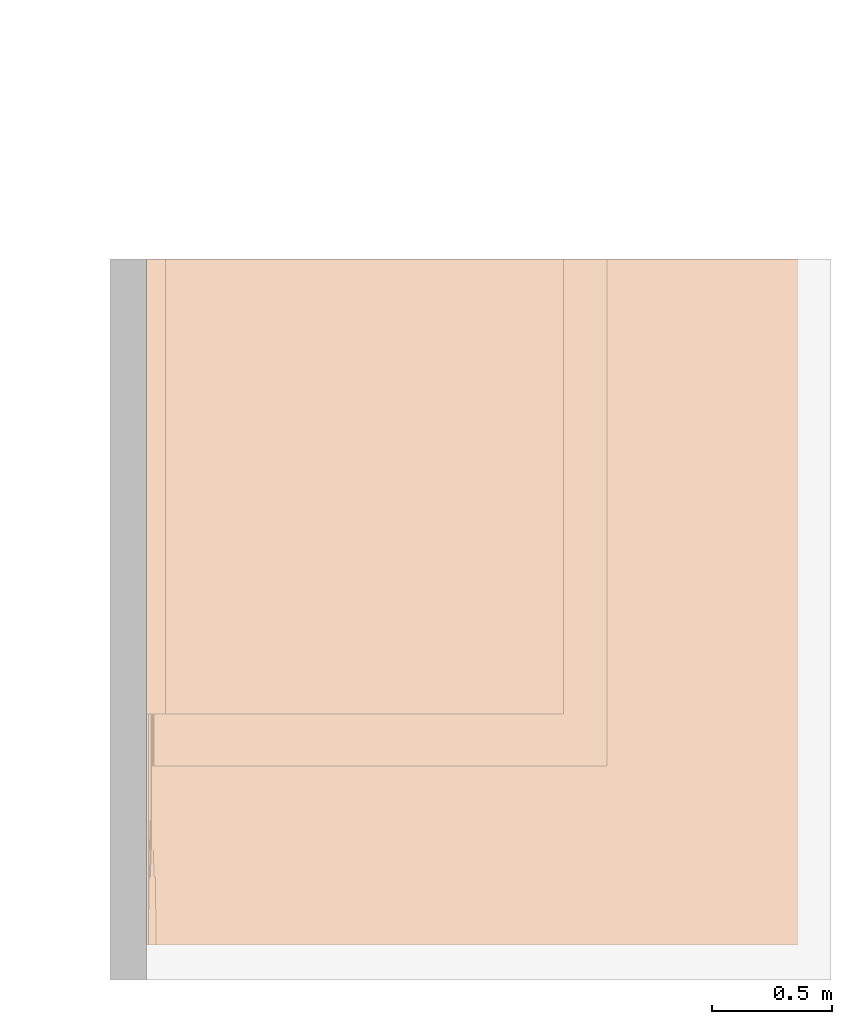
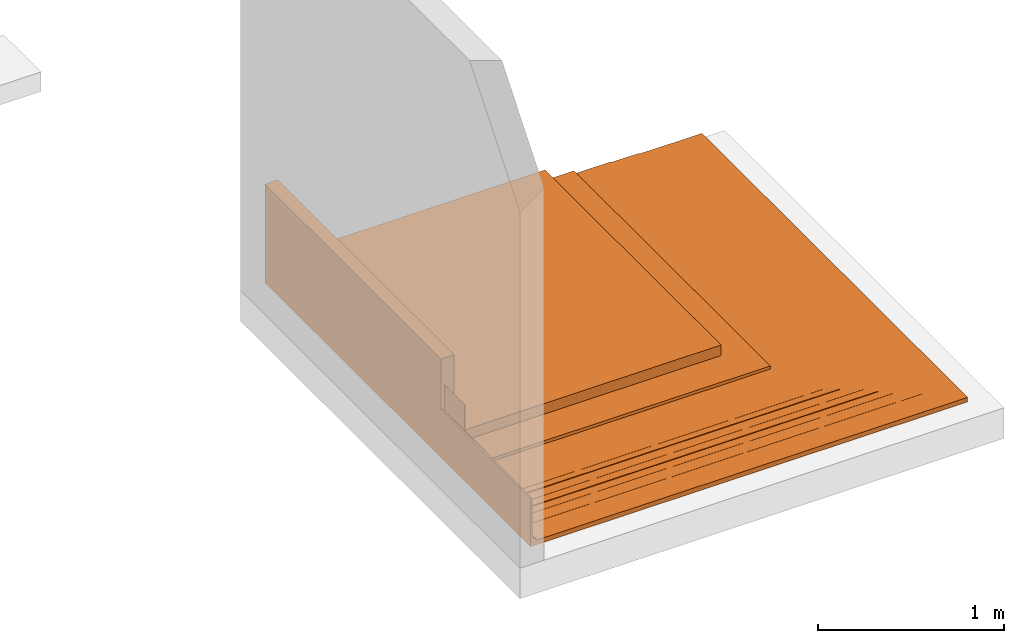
# One storey, part 2 of 2: 1 proxy.
"""IFC2X3 building model written with IfcOpenShell, lengths in metres."""

from ifc_helpers import new_model, entity, si_unit, converted_unit, derived_unit, direction, frame, frame_2d, origin, origin_2d_with_axis, place, context, subcontext, project, spatial, polyline, circle_curve, parameter, trimmed, segment, composite_curve, rectangle, outline, extrude, source, transform, mapped, material, material_list, type_object, type_shapes, element, save


model = new_model("IFC2X3")

# Units and contexts
model_context = context("Model", 3, precision=1e-05, world=origin(), true_north=direction((6.123031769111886e-17, 1.0)))
body_context = subcontext(model_context, "Body", "Model", "MODEL_VIEW")
ifc_project = project(units=[si_unit("LENGTHUNIT", "METRE"), si_unit("AREAUNIT", "SQUARE_METRE"), si_unit("VOLUMEUNIT", "CUBIC_METRE"), converted_unit("PLANEANGLEUNIT", "DEGREE", entity("IfcRatioMeasure", 0.017453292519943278), si_unit("PLANEANGLEUNIT", "RADIAN"), dimensions=[0, 0, 0, 0, 0, 0, 0]), si_unit("MASSUNIT", "GRAM", prefix="KILO"), derived_unit("MASSDENSITYUNIT", [(si_unit("MASSUNIT", "GRAM", prefix="KILO"), 1), (si_unit("LENGTHUNIT", "METRE"), -3)]), derived_unit("IONCONCENTRATIONUNIT", [(si_unit("MASSUNIT", "GRAM", prefix="KILO"), 1), (si_unit("LENGTHUNIT", "METRE"), -3)]), derived_unit("MOMENTOFINERTIAUNIT", [(si_unit("LENGTHUNIT", "METRE"), 4)]), si_unit("TIMEUNIT", "SECOND"), si_unit("FREQUENCYUNIT", "HERTZ"), si_unit("THERMODYNAMICTEMPERATUREUNIT", "DEGREE_CELSIUS"), derived_unit("THERMALTRANSMITTANCEUNIT", [(si_unit("MASSUNIT", "GRAM", prefix="KILO"), 1), (si_unit("THERMODYNAMICTEMPERATUREUNIT", "KELVIN"), -1), (si_unit("TIMEUNIT", "SECOND"), -3)]), derived_unit("THERMALCONDUCTANCEUNIT", [(si_unit("MASSUNIT", "GRAM", prefix="KILO"), 1), (si_unit("THERMODYNAMICTEMPERATUREUNIT", "KELVIN"), -1), (si_unit("TIMEUNIT", "SECOND"), -3), (si_unit("LENGTHUNIT", "METRE"), 1)]), derived_unit("VOLUMETRICFLOWRATEUNIT", [(si_unit("LENGTHUNIT", "METRE"), 3), (si_unit("TIMEUNIT", "SECOND"), -1)]), derived_unit("MASSFLOWRATEUNIT", [(si_unit("MASSUNIT", "GRAM", prefix="KILO"), 1), (si_unit("TIMEUNIT", "SECOND"), -1)]), derived_unit("ROTATIONALFREQUENCYUNIT", [(si_unit("TIMEUNIT", "SECOND"), -1)]), si_unit("ELECTRICCURRENTUNIT", "AMPERE"), si_unit("ELECTRICVOLTAGEUNIT", "VOLT"), si_unit("POWERUNIT", "WATT"), si_unit("FORCEUNIT", "NEWTON", prefix="KILO"), si_unit("ILLUMINANCEUNIT", "LUX"), si_unit("LUMINOUSFLUXUNIT", "LUMEN"), si_unit("LUMINOUSINTENSITYUNIT", "CANDELA"), derived_unit("USERDEFINED", [(si_unit("MASSUNIT", "GRAM", prefix="KILO"), -1), (si_unit("LENGTHUNIT", "METRE"), -2), (si_unit("TIMEUNIT", "SECOND"), 3), (si_unit("LUMINOUSFLUXUNIT", "LUMEN"), 1)]), derived_unit("USERDEFINED", [(si_unit("MASSUNIT", "GRAM", prefix="KILO"), 1), (si_unit("TIMEUNIT", "SECOND"), -3), (si_unit("LENGTHUNIT", "METRE"), 3), (si_unit("ELECTRICCURRENTUNIT", "AMPERE"), -2)]), derived_unit("SOUNDPOWERUNIT", [(si_unit("MASSUNIT", "GRAM", prefix="KILO"), 1), (si_unit("TIMEUNIT", "SECOND"), -3), (si_unit("LENGTHUNIT", "METRE"), 2)]), derived_unit("SOUNDPRESSUREUNIT", [(si_unit("MASSUNIT", "GRAM", prefix="KILO"), 1), (si_unit("LENGTHUNIT", "METRE"), -1), (si_unit("TIMEUNIT", "SECOND"), -2)]), derived_unit("LINEARVELOCITYUNIT", [(si_unit("LENGTHUNIT", "METRE"), 1), (si_unit("TIMEUNIT", "SECOND"), -1)]), si_unit("PRESSUREUNIT", "PASCAL"), derived_unit("USERDEFINED", [(si_unit("MASSUNIT", "GRAM", prefix="KILO"), 1), (si_unit("LENGTHUNIT", "METRE"), -2), (si_unit("TIMEUNIT", "SECOND"), -2)]), derived_unit("LINEARFORCEUNIT", [(si_unit("MASSUNIT", "GRAM", prefix="KILO"), 1), (si_unit("TIMEUNIT", "SECOND"), -2)]), derived_unit("PLANARFORCEUNIT", [(si_unit("MASSUNIT", "GRAM", prefix="KILO"), 1), (si_unit("LENGTHUNIT", "METRE"), -1), (si_unit("TIMEUNIT", "SECOND"), -2)]), derived_unit("SPECIFICHEATCAPACITYUNIT", [(si_unit("THERMODYNAMICTEMPERATUREUNIT", "KELVIN"), -1), (si_unit("LENGTHUNIT", "METRE"), 2), (si_unit("TIMEUNIT", "SECOND"), -2)]), derived_unit("HEATINGVALUEUNIT", [(si_unit("LENGTHUNIT", "METRE"), 2), (si_unit("TIMEUNIT", "SECOND"), -2)]), derived_unit("VAPORPERMEABILITYUNIT", [(si_unit("LENGTHUNIT", "METRE"), -1), (si_unit("TIMEUNIT", "SECOND"), 1)]), derived_unit("DYNAMICVISCOSITYUNIT", [(si_unit("MASSUNIT", "GRAM", prefix="KILO"), 1), (si_unit("TIMEUNIT", "SECOND"), -1), (si_unit("LENGTHUNIT", "METRE"), -1)]), derived_unit("THERMALEXPANSIONCOEFFICIENTUNIT", [(si_unit("THERMODYNAMICTEMPERATUREUNIT", "KELVIN"), -1)]), derived_unit("MODULUSOFELASTICITYUNIT", [(si_unit("MASSUNIT", "GRAM", prefix="KILO"), 1), (si_unit("LENGTHUNIT", "METRE"), -1), (si_unit("TIMEUNIT", "SECOND"), -2)]), derived_unit("ISOTHERMALMOISTURECAPACITYUNIT", [(si_unit("LENGTHUNIT", "METRE"), 3), (si_unit("MASSUNIT", "GRAM", prefix="KILO"), -1)]), derived_unit("MOISTUREDIFFUSIVITYUNIT", [(si_unit("TIMEUNIT", "SECOND"), -1), (si_unit("LENGTHUNIT", "METRE"), 2)])], contexts=[model_context])

# Site, building, storey
site_placement = place(None, origin())
site = spatial("IfcSite", under=ifc_project, at=site_placement, Name="Default", CompositionType="ELEMENT")
building_placement = place(site_placement, origin())
building = spatial("IfcBuilding", under=site, at=building_placement, CompositionType="ELEMENT")
storey_placement = place(building_placement, frame((0.0, 0.0, -0.0025237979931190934)))
storey = spatial("IfcBuildingStorey", under=building, at=storey_placement, Name="ARQ Térreo", CompositionType="ELEMENT", Elevation=-0.0025237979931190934)

# Proxy
ifc_material_1 = material(Name="#argamassa")
ifc_material_2 = material(Name="#Asfalto Modificado NBR II")
ifc_material_3 = material(Name="#selante")
ifc_material_4 = material(Name="#proteção mecânica")
ifc_material_5 = material(Name="#camada amortecedora")
ifc_material_6 = material(Name="#Viapoxi Adesivo")
ifc_material_7 = material(Name="#Tela Plástica")
ifc_material_8 = material(Name="#Primer Adeflex")
ifc_material_9 = material(Name="# Torodin Extra 4mm - TIPO IV - Classe A")
ifc_material_list = material_list([ifc_material_1, ifc_material_2, ifc_material_3, ifc_material_4, ifc_material_5, ifc_material_6, ifc_material_7, ifc_material_8, ifc_material_9])
building_element_proxy_type = type_object("IfcBuildingElementProxyType", Name="IMPER:IMPER", PredefinedType="NOTDEFINED", material=ifc_material_list)
shared_shape = source(origin(), body_context, "Body", "SweptSolid", [
    extrude(rectangle(XDim=2.854111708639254, YDim=0.010000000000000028, at=origin_2d_with_axis()), frame((-0.3479704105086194, -1.2811858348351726, -0.0035237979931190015), z_axis=(0.0, 0.0, 1.0), x_axis=(0.0, -1.0, 0.0)), (0.0, 0.0, 1.0), 0.3135006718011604),
    extrude(outline(composite_curve([segment(polyline([(-1.813859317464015, -0.13360226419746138), (0.20644576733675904, -0.1336022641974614)]), True, "CONTINUOUS"), segment(trimmed(circle_curve(frame_2d((0.20553802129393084, -0.11362287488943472), x_axis=(-1.0, 0.0)), 0.01999999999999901), [parameter(92.60139452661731)], [parameter(178.38787417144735)], True, "PARAMETER"), True, "CONTINUOUS"), segment(polyline([(0.2255301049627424, -0.11418553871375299), (0.22553010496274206, -0.007453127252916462)]), True, "CONTINUOUS"), segment(trimmed(circle_curve(frame_2d((0.23048310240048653, -0.007453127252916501), x_axis=(-1.0, 0.0)), 0.004952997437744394), [parameter(300.6220848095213)], [parameter(0.0)], True, "PARAMETER"), False, "CONTINUOUS"), segment(trimmed(circle_curve(frame_2d((0.2223564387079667, 0.0027603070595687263), x_axis=(-1.0, 0.0)), 0.008174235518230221), [parameter(133.27784297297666)], [parameter(177.32350277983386)], True, "PARAMETER"), True, "CONTINUOUS"), segment(polyline([(0.2305217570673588, 0.002378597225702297), (0.2305217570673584, 0.12637217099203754)]), True, "CONTINUOUS"), segment(polyline([(0.2305217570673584, 0.12637217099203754), (0.23452175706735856, 0.13037217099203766)]), True, "CONTINUOUS"), segment(polyline([(0.23452175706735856, 0.13037217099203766), (0.2355267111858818, 0.13037217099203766)]), True, "CONTINUOUS"), segment(polyline([(0.2355267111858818, 0.13037217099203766), (0.2355267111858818, 0.13137217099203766)]), True, "CONTINUOUS"), segment(polyline([(0.2355267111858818, 0.13137217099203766), (0.23410754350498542, 0.13137217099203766)]), True, "CONTINUOUS"), segment(polyline([(0.23410754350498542, 0.13137217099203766), (0.22949272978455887, 0.12675735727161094)]), True, "CONTINUOUS"), segment(polyline([(0.22949272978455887, 0.12675735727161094), (0.22949272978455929, 0.0024504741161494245)]), True, "CONTINUOUS"), segment(trimmed(circle_curve(frame_2d((0.22306999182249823, 0.0024504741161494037), x_axis=(-1.0, 0.0)), 0.006422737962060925), [parameter(128.38111437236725)], [parameter(180.0000000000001)], True, "PARAMETER"), False, "CONTINUOUS"), segment(trimmed(circle_curve(frame_2d((0.23048310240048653, -0.007453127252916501), x_axis=(-1.0, 0.0)), 0.005952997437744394), [parameter(305.12701085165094)], [parameter(359.9999999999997)], True, "PARAMETER"), True, "CONTINUOUS"), segment(polyline([(0.224530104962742, -0.007453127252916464), (0.22453010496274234, -0.11417128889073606)]), True, "CONTINUOUS"), segment(trimmed(circle_curve(frame_2d((0.20553802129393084, -0.11362287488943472), x_axis=(-1.0, 0.0)), 0.01899999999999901), [parameter(92.6689865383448)], [parameter(178.34599092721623)], True, "PARAMETER"), False, "CONTINUOUS"), segment(polyline([(0.20642277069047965, -0.1326022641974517), (-1.813859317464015, -0.1326022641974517)]), True, "CONTINUOUS"), segment(polyline([(-1.813859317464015, -0.1326022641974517), (-1.813859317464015, -0.13360226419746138)]), True, "CONTINUOUS")], self_intersect=False)), frame((-0.10643238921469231, -2.2686283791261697, 0.1710990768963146), z_axis=(0.0, 1.0, 0.0), x_axis=(-1.0, 0.0, 0.0)), (0.0, 0.0, 1.0), 2.4144983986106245),
    extrude(outline(composite_curve([segment(polyline([(-1.8958298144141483, -0.09711737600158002), (0.32326479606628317, -0.09711737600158)]), True, "CONTINUOUS"), segment(trimmed(circle_curve(frame_2d((0.32224985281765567, -0.07213798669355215), x_axis=(-1.0, 0.0)), 0.024999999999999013), [parameter(92.32671802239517)], [parameter(178.55808033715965)], True, "PARAMETER"), True, "CONTINUOUS"), segment(polyline([(0.3472419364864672, -0.07276707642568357), (0.34724193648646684, 0.03403176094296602)]), True, "CONTINUOUS"), segment(polyline([(0.34724193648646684, 0.03403176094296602), (0.35123854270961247, 0.03802836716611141)]), True, "CONTINUOUS"), segment(polyline([(0.35123854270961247, 0.03802836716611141), (0.3522385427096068, 0.038028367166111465)]), True, "CONTINUOUS"), segment(polyline([(0.3522385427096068, 0.038028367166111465), (0.35223854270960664, 0.17185705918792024)]), True, "CONTINUOUS"), segment(polyline([(0.35223854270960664, 0.17185705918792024), (0.3512335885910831, 0.17185705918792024)]), True, "CONTINUOUS"), segment(polyline([(0.3512335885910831, 0.17185705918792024), (0.3512335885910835, 0.043779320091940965)]), True, "CONTINUOUS"), segment(trimmed(circle_curve(frame_2d((0.3390682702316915, 0.0442451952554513), x_axis=(-1.0, 0.0)), 0.012174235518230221), [parameter(126.10379218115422)], [parameter(177.80690954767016)], True, "PARAMETER"), False, "CONTINUOUS"), segment(polyline([(0.34624193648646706, 0.034409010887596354), (0.3462419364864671, -0.07275436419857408)]), True, "CONTINUOUS"), segment(trimmed(circle_curve(frame_2d((0.32224985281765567, -0.07213798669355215), x_axis=(-1.0, 0.0)), 0.02399999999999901), [parameter(92.37470343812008)], [parameter(178.5283452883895)], True, "PARAMETER"), False, "CONTINUOUS"), segment(polyline([(0.32324428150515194, -0.0961173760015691), (-1.8958298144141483, -0.0961173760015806)]), True, "CONTINUOUS"), segment(polyline([(-1.8958298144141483, -0.0961173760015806), (-1.8958298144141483, -0.09711737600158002)]), True, "CONTINUOUS")], self_intersect=False)), frame((0.01027944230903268, -2.3729793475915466, 0.1296141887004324), z_axis=(0.0, 1.0, 0.0), x_axis=(-1.0, 0.0, 0.0)), (0.0, 0.0, 1.0), 2.518849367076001),
    extrude(outline(composite_curve([segment(polyline([(-1.7684763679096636, -0.04184388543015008), (0.5713360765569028, -0.041843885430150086)]), True, "CONTINUOUS"), segment(trimmed(circle_curve(frame_2d((0.5701161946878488, -0.01286955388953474), x_axis=(-1.0, 0.0)), 0.028999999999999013), [parameter(92.41085211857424)], [parameter(178.3997563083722)], True, "PARAMETER"), True, "CONTINUOUS"), segment(polyline([(0.5991048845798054, -0.013679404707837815), (0.599104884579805, 0.09630019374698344)]), True, "CONTINUOUS"), segment(polyline([(0.599104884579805, 0.09630019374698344), (0.5981082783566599, 0.09630019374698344)]), True, "CONTINUOUS"), segment(polyline([(0.5981082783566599, 0.09630019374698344), (0.5981082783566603, -0.013535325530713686)]), True, "CONTINUOUS"), segment(trimmed(circle_curve(frame_2d((0.5701161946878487, -0.01286955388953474), x_axis=(-1.0, 0.0)), 0.027999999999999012), [parameter(92.19852569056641)], [parameter(178.63751783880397)], True, "PARAMETER"), False, "CONTINUOUS"), segment(polyline([(0.5711903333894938, -0.040848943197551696), (-1.7684763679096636, -0.04084894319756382)]), True, "CONTINUOUS"), segment(polyline([(-1.7684763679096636, -0.04084894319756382), (-1.7684763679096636, -0.04184388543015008)]), True, "CONTINUOUS")], self_intersect=False)), frame((0.2571457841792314, -2.4789376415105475, 0.06934575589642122), z_axis=(0.0, 1.0, 0.0), x_axis=(-1.0, 0.0, 0.0)), (0.0, 0.0, 1.0), 2.624807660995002),
    extrude(rectangle(XDim=1.8925693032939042, YDim=0.020000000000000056, at=origin_2d_with_axis()), frame((-0.2619704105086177, -0.8004146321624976, 0.10730187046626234), z_axis=(0.0, 0.0, 1.0), x_axis=(0.0, -1.0, 0.0)), (0.0, 0.0, 1.0), 0.019999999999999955),
    extrude(outline(composite_curve([segment(polyline([(0.10117837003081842, -1.4683862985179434), (0.16998342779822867, -1.4683862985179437)]), True, "CONTINUOUS"), segment(polyline([(0.16998342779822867, -1.4683862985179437), (0.16998342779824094, 0.24641370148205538)]), True, "CONTINUOUS"), segment(polyline([(0.16998342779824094, 0.24641370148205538), (0.06483429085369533, 0.2464137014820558)]), True, "CONTINUOUS"), segment(trimmed(circle_curve(frame_2d((0.06483429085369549, 0.25237009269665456), x_axis=(0.0, -1.0)), 0.005952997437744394), [parameter(305.12701085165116)], [parameter(359.9999999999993)], True, "PARAMETER"), False, "CONTINUOUS"), segment(trimmed(circle_curve(frame_2d((0.05493068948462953, 0.24495698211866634), x_axis=(0.0, -1.0)), 0.006422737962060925), [parameter(128.38111437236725)], [parameter(179.9999999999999)], True, "PARAMETER"), True, "CONTINUOUS"), segment(polyline([(0.054930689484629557, 0.2513797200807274), (-0.07461386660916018, 0.2513797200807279)]), True, "CONTINUOUS"), segment(polyline([(-0.07461386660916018, 0.2513797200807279), (-0.0814966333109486, 0.25826248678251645)]), True, "CONTINUOUS"), segment(polyline([(-0.0814966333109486, 0.25826248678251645), (-0.08149663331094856, 0.2684250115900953)]), True, "CONTINUOUS"), segment(polyline([(-0.08149663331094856, 0.2684250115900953), (-0.41399100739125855, 0.26842501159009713)]), True, "CONTINUOUS"), segment(polyline([(-0.41399100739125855, 0.26842501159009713), (-0.4139910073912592, 0.18742501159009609)]), True, "CONTINUOUS"), segment(polyline([(-0.4139910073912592, 0.18742501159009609), (0.10117837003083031, 0.18742501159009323)]), True, "CONTINUOUS"), segment(polyline([(0.10117837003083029, 0.18742501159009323), (0.12117837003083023, 0.18742501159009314)]), True, "CONTINUOUS"), segment(polyline([(0.12117837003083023, 0.18742501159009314), (0.12117837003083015, 0.16742501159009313)]), True, "CONTINUOUS"), segment(polyline([(0.12117837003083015, 0.16742501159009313), (0.10117837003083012, 0.1674250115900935)]), True, "CONTINUOUS"), segment(polyline([(0.10117837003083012, 0.1674250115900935), (0.10117837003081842, -1.4683862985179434)]), True, "CONTINUOUS")], self_intersect=False)), frame((-0.08454539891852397, -1.7466992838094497, 0.22848024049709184), z_axis=(0.0, 1.0, 0.0), x_axis=(0.0, 0.0, -1.0)), (0.0, 0.0, 1.0), 1.892569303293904),
    extrude(outline(composite_curve([segment(polyline([(-0.011666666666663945, -1.2077923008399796), (0.008333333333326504, -1.2077923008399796)]), True, "CONTINUOUS"), segment(polyline([(0.008333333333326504, -1.2077923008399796), (0.008333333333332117, 0.5322156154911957)]), True, "CONTINUOUS"), segment(polyline([(0.008333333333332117, 0.5322156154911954), (0.0033333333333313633, 0.5322156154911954)]), True, "CONTINUOUS"), segment(polyline([(0.0033333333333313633, 0.5322156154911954), (0.0033333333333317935, 0.668975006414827)]), True, "CONTINUOUS"), segment(trimmed(circle_curve(frame_2d((-0.010646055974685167, 0.6682156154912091), x_axis=(0.0, -1.0)), 0.013999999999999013), [parameter(93.10937565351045)], [parameter(184.18061466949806)], True, "PARAMETER"), True, "CONTINUOUS"), segment(polyline([(-0.011666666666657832, 0.6821783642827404), (-0.011666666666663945, -1.2077923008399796)]), True, "CONTINUOUS")], self_intersect=False)), frame((0.35624520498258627, -1.963640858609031, 0.04683014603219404), z_axis=(0.0, 1.0, 0.0), x_axis=(0.0, 0.0, -1.0)), (0.0, 0.0, 1.0), 2.109510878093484),
    extrude(outline(polyline([(-0.0018600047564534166, 4.9098278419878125e-05), (0.00810994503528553, 4.909827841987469e-05), (0.011813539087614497, 0.003752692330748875), (-0.0023990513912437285, 0.0037526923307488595), (-0.008892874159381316, -0.0027411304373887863), (-0.006771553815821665, -0.004862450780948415), (-0.0018600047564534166, 4.9098278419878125e-05)])), frame((-0.3372750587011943, -2.191126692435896, 0.2991369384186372), z_axis=(0.0, 1.0, 0.0), x_axis=(-0.707106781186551, 0.0, 0.7071067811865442)), (0.0, 0.0, 1.0), 2.3369967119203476),
    extrude(outline(composite_curve([segment(polyline([(0.0043999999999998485, -0.08363852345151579), (0.0043999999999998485, -0.18117651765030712)]), True, "CONTINUOUS"), segment(polyline([(0.0043999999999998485, -0.18117651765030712), (0.005199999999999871, -0.18117651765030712)]), True, "CONTINUOUS"), segment(polyline([(0.005199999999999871, -0.18117651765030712), (0.005199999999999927, -0.0836385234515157)]), True, "CONTINUOUS"), segment(trimmed(circle_curve(frame_2d((-0.010352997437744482, -0.08363852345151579), x_axis=(1.0, 0.0)), 0.015552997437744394), [parameter(3.5622212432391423e-13)], [parameter(46.2607256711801)], True, "PARAMETER"), True, "CONTINUOUS"), segment(polyline([(0.0004000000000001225, -0.07240158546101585), (0.000400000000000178, 0.05148795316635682)]), True, "CONTINUOUS"), segment(trimmed(circle_curve(frame_2d((-0.015152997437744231, 0.05148795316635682), x_axis=(1.0, 0.0)), 0.015552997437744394), [parameter(0.0)], [parameter(46.26072567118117)], True, "PARAMETER"), True, "CONTINUOUS"), segment(polyline([(-0.0043999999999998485, 0.06272489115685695), (-0.004400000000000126, 0.22335087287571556)]), True, "CONTINUOUS"), segment(polyline([(-0.004400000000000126, 0.22335087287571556), (-0.005200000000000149, 0.22335087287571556)]), True, "CONTINUOUS"), segment(polyline([(-0.005200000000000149, 0.22335087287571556), (-0.005199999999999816, 0.06237780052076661)]), True, "CONTINUOUS"), segment(trimmed(circle_curve(frame_2d((-0.015152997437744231, 0.05148795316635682), x_axis=(1.0, 0.0)), 0.014752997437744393), [parameter(359.9999999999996)], [parameter(47.573614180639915)], True, "PARAMETER"), False, "CONTINUOUS"), segment(polyline([(-0.0003999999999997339, 0.05148795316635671), (-0.00039999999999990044, -0.0727486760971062)]), True, "CONTINUOUS"), segment(trimmed(circle_curve(frame_2d((-0.010352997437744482, -0.08363852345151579), x_axis=(1.0, 0.0)), 0.014752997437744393), [parameter(0.0)], [parameter(47.5736141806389)], True, "PARAMETER"), False, "CONTINUOUS")], self_intersect=False)), frame((-0.326759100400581, -1.963640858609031, 0.2459882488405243), z_axis=(0.0, -1.0, 0.0), x_axis=(1.0, 0.0, 0.0)), (0.0, 0.0, -1.0), 2.109510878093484),
    extrude(outline(composite_curve([segment(polyline([(-1.0560000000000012, -0.006000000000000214), (1.6140000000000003, -0.0060000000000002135)]), True, "CONTINUOUS"), segment(polyline([(1.6140000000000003, -0.0060000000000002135), (1.6140000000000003, 0.023999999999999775)]), True, "CONTINUOUS"), segment(polyline([(1.6140000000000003, 0.023999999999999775), (-1.0860000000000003, 0.02399999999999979)]), True, "CONTINUOUS"), segment(polyline([(-1.0860000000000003, 0.023999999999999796), (-1.0860000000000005, -0.03599999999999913)]), True, "CONTINUOUS"), segment(trimmed(circle_curve(frame_2d((-1.0560000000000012, -0.03599999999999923), x_axis=(1.0, 0.0)), 0.029999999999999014), [parameter(90.00000000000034)], [parameter(179.99999999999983)], True, "PARAMETER"), False, "CONTINUOUS")], self_intersect=False)), frame((0.7430295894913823, -2.7082416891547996, 0.02047620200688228), z_axis=(0.0, 1.0, 0.0), x_axis=(1.0, 0.0, 0.0)), (0.0, 0.0, 1.0), 2.8541117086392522),
    extrude(outline(composite_curve([segment(polyline([(-0.6330418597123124, -0.04746379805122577), (-0.6330418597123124, 0.19934109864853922)]), True, "CONTINUOUS"), segment(polyline([(-0.6330418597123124, 0.19934109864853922), (-0.6340531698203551, 0.19934109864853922)]), True, "CONTINUOUS"), segment(polyline([(-0.6340531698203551, 0.19934109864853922), (-0.6340531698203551, -0.04665394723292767)]), True, "CONTINUOUS"), segment(trimmed(circle_curve(frame_2d((-0.6040531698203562, -0.04665394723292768), x_axis=(1.0, 0.0)), 0.029999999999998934), [parameter(179.99999999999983)], [parameter(270.0000000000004)], True, "PARAMETER"), True, "CONTINUOUS"), segment(polyline([(-0.6040531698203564, -0.07665394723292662), (1.8717581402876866, -0.07665394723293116)]), True, "CONTINUOUS"), segment(polyline([(1.8717581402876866, -0.07665394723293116), (1.8717581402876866, -0.07562827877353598)]), True, "CONTINUOUS"), segment(polyline([(1.8717581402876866, -0.07562827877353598), (-0.6052730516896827, -0.07562827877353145)]), True, "CONTINUOUS"), segment(trimmed(circle_curve(frame_2d((-0.6040531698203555, -0.04665394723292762), x_axis=(1.0, 0.0)), 0.028999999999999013), [parameter(181.60024369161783)], [parameter(267.5891478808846)], True, "PARAMETER"), False, "CONTINUOUS")], self_intersect=False)), frame((0.2910827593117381, -2.558785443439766, 0.10313014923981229), z_axis=(0.0, -1.0, 0.0), x_axis=(1.0, 0.0, 0.0)), (0.0, 0.0, -1.0), 2.7046554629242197),
    extrude(outline(composite_curve([segment(trimmed(circle_curve(frame_2d((-0.03309582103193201, -0.3317646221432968), x_axis=(0.0, 1.0)), 0.004952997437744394), [parameter(4.0711099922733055e-13)], [parameter(59.3779151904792)], True, "PARAMETER"), True, "CONTINUOUS"), segment(trimmed(circle_curve(frame_2d((-0.04330925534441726, -0.323637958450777), x_axis=(0.0, 1.0)), 0.008174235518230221), [parameter(182.67649722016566)], [parameter(226.72215702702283)], True, "PARAMETER"), False, "CONTINUOUS"), segment(polyline([(-0.04292754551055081, -0.3318032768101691), (-0.1669211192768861, -0.3318032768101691)]), True, "CONTINUOUS"), segment(polyline([(-0.1669211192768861, -0.3318032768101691), (-0.17092111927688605, -0.3358032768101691)]), True, "CONTINUOUS"), segment(polyline([(-0.17092111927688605, -0.3358032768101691), (-0.04284338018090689, -0.3358032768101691)]), True, "CONTINUOUS"), segment(trimmed(circle_curve(frame_2d((-0.04330925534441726, -0.323637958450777), x_axis=(0.0, 1.0)), 0.012174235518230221), [parameter(182.19309045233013)], [parameter(233.8962078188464)], True, "PARAMETER"), True, "CONTINUOUS"), segment(polyline([(-0.0334730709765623, -0.33081162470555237), (0.07369030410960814, -0.33081162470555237)]), True, "CONTINUOUS"), segment(trimmed(circle_curve(frame_2d((0.07307392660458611, -0.30681954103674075), x_axis=(0.0, 1.0)), 0.02399999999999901), [parameter(181.47165471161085)], [parameter(267.6252965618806)], True, "PARAMETER"), True, "CONTINUOUS"), segment(polyline([(0.09705331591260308, -0.3078139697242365), (0.09705331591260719, 1.7976212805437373)]), True, "CONTINUOUS"), segment(polyline([(0.09705331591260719, 1.7976212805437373), (0.09305331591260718, 1.7976212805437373)]), True, "CONTINUOUS"), segment(polyline([(0.09305331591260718, 1.7976212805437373), (0.09305331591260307, -0.3077272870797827)]), True, "CONTINUOUS"), segment(trimmed(circle_curve(frame_2d((0.07307392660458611, -0.30681954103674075), x_axis=(0.0, 1.0)), 0.01999999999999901), [parameter(181.61212582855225)], [parameter(267.398605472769)], True, "PARAMETER"), False, "CONTINUOUS"), segment(polyline([(0.07363659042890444, -0.32681162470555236), (-0.033095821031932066, -0.32681162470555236)]), True, "CONTINUOUS")], self_intersect=False)), frame((-0.005150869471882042, -2.3104740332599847, 0.13055012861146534), z_axis=(0.0, -1.0, 0.0), x_axis=(0.0, 0.0, -1.0)), (0.0, 0.0, -1.0), 2.456344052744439),
    extrude(outline(composite_curve([segment(polyline([(-0.5802061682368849, -0.013878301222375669), (-0.5802061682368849, 0.09292053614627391)]), True, "CONTINUOUS"), segment(polyline([(-0.5802061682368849, 0.09292053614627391), (-0.5842027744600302, 0.09691714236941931)]), True, "CONTINUOUS"), segment(polyline([(-0.5842027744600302, 0.09691714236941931), (-0.58420277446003, -0.015044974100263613)]), True, "CONTINUOUS"), segment(trimmed(circle_curve(frame_2d((-0.5562140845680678, -0.014249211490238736), x_axis=(1.0, 0.0)), 0.027999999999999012), [parameter(181.62857067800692)], [parameter(267.8014743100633)], True, "PARAMETER"), True, "CONTINUOUS"), segment(polyline([(-0.5572882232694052, -0.042228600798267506), (1.7211675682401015, -0.042228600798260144)]), True, "CONTINUOUS"), segment(polyline([(1.7211675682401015, -0.042228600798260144), (1.7211675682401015, -0.03822860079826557)]), True, "CONTINUOUS"), segment(polyline([(1.7211675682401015, -0.03822860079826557), (-0.5562290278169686, -0.038228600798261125)]), True, "CONTINUOUS"), segment(trimmed(circle_curve(frame_2d((-0.5552140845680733, -0.013249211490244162), x_axis=(1.0, 0.0)), 0.024999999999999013), [parameter(181.44191966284)], [parameter(267.6732819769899)], True, "PARAMETER"), False, "CONTINUOUS")], self_intersect=False)), frame((0.24324367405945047, -2.425100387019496, 0.07072541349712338), z_axis=(0.0, -1.0, 0.0), x_axis=(1.0, 0.0, 0.0)), (0.0, 0.0, -1.0), 2.5709704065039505),
])
type_shapes(building_element_proxy_type, [shared_shape])
proxy_placement = place(storey_placement, frame((0.0, 0.0, 0.0025237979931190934)))
element("IfcBuildingElementProxy", 1, at=proxy_placement, inside=storey, type_object=building_element_proxy_type, material=ifc_material_list, Name="IMPER:IMPER:IMPER : IMPER:IMPER", ObjectType="IMPER:IMPER:IMPER : IMPER:IMPER", context=body_context, shape_type="MappedRepresentation", body=[
    mapped(shared_shape, transform((0.0, 0.0, 0.0), scale=1.0)),
])

save(model, "model.ifc")
